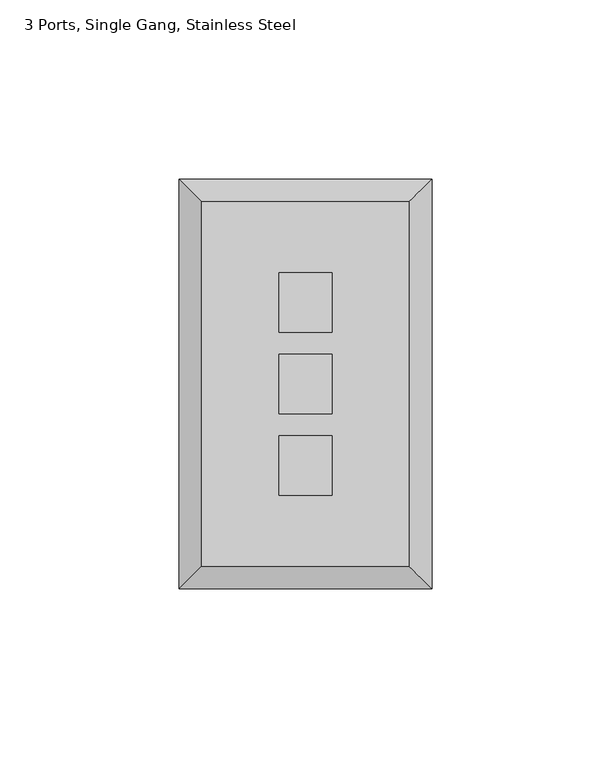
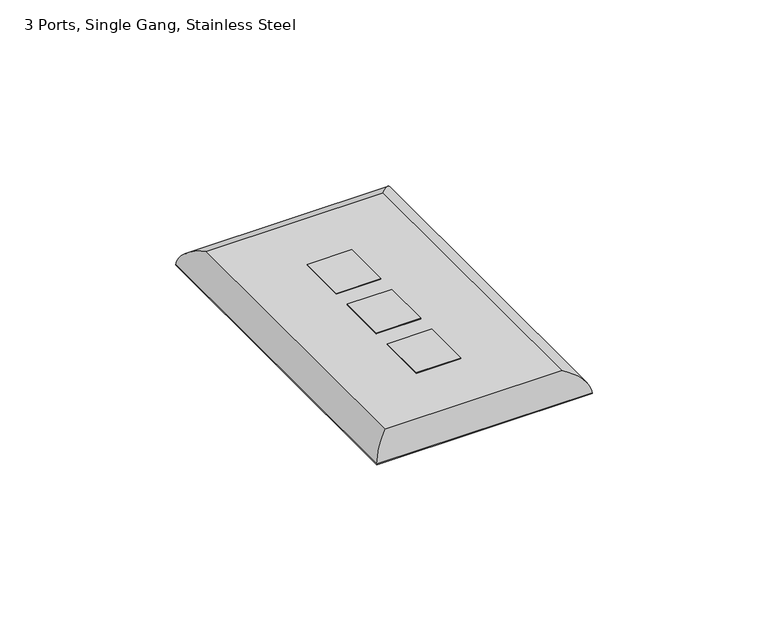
"""IFC4 building model written with IfcOpenShell, lengths in millimetres: electric appliance geometry, Data_Device-Work_Area-Leviton-QuickPort-Wallplate : 3 Ports, Single Gang, Stainless Steel."""

from ifc_helpers import new_model, si_unit, frame, origin, origin_with_axes, place, context, project, spatial, polyline, ellipse_curve, outline, extrude, source, transform, mapped, element, save
from ifc_brep_helpers import plane_surface, cylinder_surface, advanced_brep


def electric_appliance_3_ports_single_gang_stainless_steel_c94745d8(model_context):
    return source(origin(), model_context, "Body", "SolidModel", [
        extrude(outline(polyline([(-15.6591, 16.4465), (-15.6591, -0.0635), (-30.3911, -0.0635), (-30.3911, 16.4465), (-15.6591, 16.4465)])), origin_with_axes(), (0.0, 0.0, 1.0), 6.35),
        extrude(outline(polyline([(-15.6591, 39.1795), (-15.6591, 22.6695), (-30.3911, 22.6695), (-30.3911, 39.1795), (-15.6591, 39.1795)])), origin_with_axes(), (0.0, 0.0, 1.0), 6.35),
        extrude(outline(polyline([(-15.6591, -6.2865), (-15.6591, -22.7965), (-30.3911, -22.7965), (-30.3911, -6.2865), (-15.6591, -6.2865)])), origin_with_axes(), (0.0, 0.0, 1.0), 6.35),
        advanced_brep(
        [(5.9309, -42.6085, 6.35), (5.9309, 58.9915, 6.35), (-51.9811, 58.9915, 6.35), (-51.9811, -42.6085, 6.35), (-30.3911, 39.1795, 6.35), (-15.6591, 39.1795, 6.35), (-15.6591, 22.6695, 6.35), (-30.3911, 22.6695, 6.35), (-30.3911, 16.4465, 6.35), (-15.6591, 16.4465, 6.35), (-15.6591, -0.0635, 6.35), (-30.3911, -0.0635, 6.35), (-30.3911, -6.2865, 6.35), (-15.6591, -6.2865, 6.35), (-15.6591, -22.7965, 6.35), (-30.3911, -22.7965, 6.35), (12.2809, 65.3415, 0.0), (12.2809, -48.9585, 0.0), (-58.3311, -48.9585, 0.0), (-58.3311, 65.3415, 0.0), (-15.6591, 39.1795, 0.0), (-30.3911, 39.1795, 0.0), (-30.3911, 22.6695, 0.0), (-15.6591, 22.6695, 0.0), (-15.6591, 16.4465, 0.0), (-30.3911, 16.4465, 0.0), (-30.3911, -0.0635, 0.0), (-15.6591, -0.0635, 0.0), (-15.6591, -6.2865, 0.0), (-30.3911, -6.2865, 0.0), (-30.3911, -22.7965, 0.0), (-15.6591, -22.7965, 0.0), (-58.3311, 65.3415, 0.254), (12.2809, 65.3415, 0.254), (-58.3311, -48.9585, 0.254), (12.2809, -48.9585, 0.254)],
        [
            (0, 1),
            (1, 2),
            (2, 3),
            (3, 0),
            (4, 5),
            (5, 6),
            (6, 7),
            (7, 4),
            (8, 9),
            (9, 10),
            (10, 11),
            (11, 8),
            (12, 13),
            (13, 14),
            (14, 15),
            (15, 12),
            (16, 17),
            (17, 18),
            (18, 19),
            (19, 16),
            (20, 21),
            (21, 22),
            (22, 23),
            (23, 20),
            (24, 25),
            (25, 26),
            (26, 27),
            (27, 24),
            (28, 29),
            (29, 30),
            (30, 31),
            (31, 28),
            (19, 32),
            (32, 33),
            (33, 16),
            (18, 34),
            (34, 32),
            (17, 35),
            (35, 34),
            (33, 35),
            (4, 21),
            (20, 5),
            (7, 22),
            (6, 23),
            (8, 25),
            (24, 9),
            (11, 26),
            (10, 27),
            (12, 29),
            (28, 13),
            (15, 30),
            (14, 31),
            (0, 35, ellipse_curve(frame((5.9309, -42.6085, -0.0052917), z_axis=(0.7071067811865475, 0.7071067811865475, 0.0), x_axis=(0.7071067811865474, -0.7071067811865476, 0.0)), 8.9877397, 6.3552917)),
            (33, 1, ellipse_curve(frame((5.9309, 58.9915, -0.0052917), z_axis=(0.7071067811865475, -0.7071067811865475, 0.0), x_axis=(-0.7071067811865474, -0.7071067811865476, 0.0)), 8.9877397, 6.3552917)),
            (3, 34, ellipse_curve(frame((-51.9811, -42.6085, -0.0052917), z_axis=(0.7071067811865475, -0.7071067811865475, 0.0), x_axis=(-0.7071067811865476, -0.7071067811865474, 0.0)), 8.9877397, 6.3552917)),
            (2, 32, ellipse_curve(frame((-51.9811, 58.9915, -0.0052917), z_axis=(-0.7071067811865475, -0.7071067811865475, 0.0), x_axis=(-0.7071067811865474, 0.7071067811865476, 0.0)), 8.9877397, 6.3552917)),
        ],
        [
            plane_surface(frame((-58.3311, 65.3415, 6.35), z_axis=(0.0, 0.0, 1.0), x_axis=(-1.0, 0.0, 0.0))),
            plane_surface(frame((-58.3311, 65.3415, 0.0), z_axis=(0.0, 0.0, -1.0), x_axis=(1.0, 0.0, 0.0))),
            plane_surface(frame((12.2809, 65.3415, 6.35), z_axis=(0.0, 1.0, 0.0), x_axis=(0.0, 0.0, -1.0))),
            plane_surface(frame((-58.3311, 65.3415, 6.35), z_axis=(-1.0, 0.0, 0.0), x_axis=(0.0, 0.0, -1.0))),
            plane_surface(frame((-58.3311, -48.9585, 6.35), z_axis=(0.0, -1.0, 0.0), x_axis=(0.0, 0.0, -1.0))),
            plane_surface(frame((12.2809, -48.9585, 6.35), z_axis=(1.0, 0.0, 0.0), x_axis=(0.0, 0.0, -1.0))),
            plane_surface(frame((-15.6591, 39.1795, 6.35), z_axis=(0.0, -1.0, 0.0), x_axis=(0.0, 0.0, -1.0))),
            plane_surface(frame((-30.3911, 39.1795, 6.35), z_axis=(1.0, 0.0, 0.0), x_axis=(0.0, 0.0, -1.0))),
            plane_surface(frame((-30.3911, 22.6695, 6.35), z_axis=(0.0, 1.0, 0.0), x_axis=(0.0, 0.0, -1.0))),
            plane_surface(frame((-15.6591, 22.6695, 6.35), z_axis=(-1.0, 0.0, 0.0), x_axis=(0.0, 0.0, -1.0))),
            plane_surface(frame((-15.6591, 16.4465, 6.35), z_axis=(0.0, -1.0, 0.0), x_axis=(0.0, 0.0, -1.0))),
            plane_surface(frame((-30.3911, 16.4465, 6.35), z_axis=(1.0, 0.0, 0.0), x_axis=(0.0, 0.0, -1.0))),
            plane_surface(frame((-30.3911, -0.0635, 6.35), z_axis=(0.0, 1.0, 0.0), x_axis=(0.0, 0.0, -1.0))),
            plane_surface(frame((-15.6591, -0.0635, 6.35), z_axis=(-1.0, 0.0, 0.0), x_axis=(0.0, 0.0, -1.0))),
            plane_surface(frame((-15.6591, -6.2865, 6.35), z_axis=(0.0, -1.0, 0.0), x_axis=(0.0, 0.0, -1.0))),
            plane_surface(frame((-30.3911, -6.2865, 6.35), z_axis=(1.0, 0.0, 0.0), x_axis=(0.0, 0.0, -1.0))),
            plane_surface(frame((-30.3911, -22.7965, 6.35), z_axis=(0.0, 1.0, 0.0), x_axis=(0.0, 0.0, -1.0))),
            plane_surface(frame((-15.6591, -22.7965, 6.35), z_axis=(-1.0, 0.0, 0.0), x_axis=(0.0, 0.0, -1.0))),
            cylinder_surface(frame((5.9309, 65.3415, -0.0052917), z_axis=(0.0, -1.0, 0.0), x_axis=(1.0, 0.0, 0.0)), 6.3552917),
            cylinder_surface(frame((12.2809, -42.6085, -0.0052917), z_axis=(-1.0, 0.0, 0.0), x_axis=(0.0, -1.0, 0.0)), 6.3552917),
            cylinder_surface(frame((-51.9811, -48.9585, -0.0052917), z_axis=(0.0, 1.0, 0.0), x_axis=(-1.0, 0.0, 0.0)), 6.3552917),
            cylinder_surface(frame((-58.3311, 58.9915, -0.0052917), z_axis=(1.0, 0.0, 0.0), x_axis=(0.0, 1.0, 0.0)), 6.3552917),
        ],
        [
            (0, [[1, 2, 3, 4], [5, 6, 7, 8], [9, 10, 11, 12], [13, 14, 15, 16]]),
            (1, [[17, 18, 19, 20], [21, 22, 23, 24], [25, 26, 27, 28], [29, 30, 31, 32]]),
            (2, [[-20, 33, 34, 35]]),
            (3, [[-19, 36, 37, -33]]),
            (4, [[-18, 38, 39, -36]]),
            (5, [[-17, -35, 40, -38]]),
            (6, [[41, -21, 42, -5]]),
            (7, [[-41, -8, 43, -22]]),
            (8, [[-43, -7, 44, -23]]),
            (9, [[-42, -24, -44, -6]]),
            (10, [[45, -25, 46, -9]]),
            (11, [[-45, -12, 47, -26]]),
            (12, [[-47, -11, 48, -27]]),
            (13, [[-46, -28, -48, -10]]),
            (14, [[49, -29, 50, -13]]),
            (15, [[-49, -16, 51, -30]]),
            (16, [[-51, -15, 52, -31]]),
            (17, [[-50, -32, -52, -14]]),
            (18, [[53, -40, 54, -1]]),
            (19, [[-53, -4, 55, -39]]),
            (20, [[-55, -3, 56, -37]]),
            (21, [[-54, -34, -56, -2]]),
        ],
    ),
        extrude(outline(polyline([(12.0269, 65.0875), (12.0269, -48.7045), (-58.0771, -48.7045), (-58.0771, 65.0875), (12.0269, 65.0875)]), holes=[polyline([(-15.6591, 39.1795), (-30.3911, 39.1795), (-30.3911, 22.6695), (-15.6591, 22.6695), (-15.6591, 39.1795)]), polyline([(-15.6591, 16.4465), (-30.3911, 16.4465), (-30.3911, -0.0635), (-15.6591, -0.0635), (-15.6591, 16.4465)]), polyline([(-15.6591, -6.2865), (-30.3911, -6.2865), (-30.3911, -22.7965), (-15.6591, -22.7965), (-15.6591, -6.2865)])]), origin_with_axes(), (0.0, 0.0, 1.0), 0.254),
    ])


if __name__ == "__main__":
    model = new_model("IFC4")
    model_context = context("Model", 3, world=origin())
    ifc_project = project(units=[si_unit("LENGTHUNIT", "METRE", prefix="MILLI")], contexts=[model_context])
    site = spatial("IfcSite", under=ifc_project)
    building = spatial("IfcBuilding", under=site)
    placement = place(None, origin())
    electric_appliance_3_ports_single_gang_stainless_steel_shape = electric_appliance_3_ports_single_gang_stainless_steel_c94745d8(model_context)
    element("IfcElectricAppliance", 1, ObjectType="Data_Device-Work_Area-Leviton-QuickPort-Wallplate : 3 Ports, Single Gang, Stainless Steel", at=placement, inside=building, context=model_context, shape_type="MappedRepresentation", body=[
        mapped(electric_appliance_3_ports_single_gang_stainless_steel_shape, transform((0.0, 0.0, 0.0), x_axis=(1.0, 0.0, 0.0), y_axis=(0.0, 1.0, 0.0), z_axis=(0.0, 0.0, 1.0))),
    ])
    save(model, "model.ifc")
